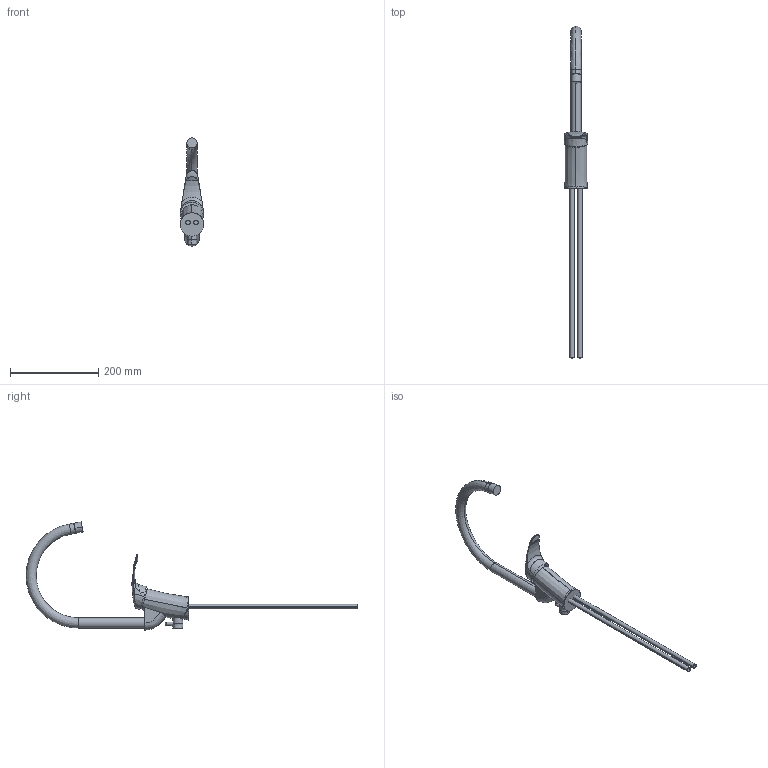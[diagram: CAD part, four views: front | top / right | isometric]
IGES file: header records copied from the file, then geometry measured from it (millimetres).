
Start section:  PTC IGES file: 10071_web.igs
Global section: file name: 10071_web.igs; native system: Creo Parametric by PTC Inc.; preprocessor: 2017380; author: jaj; organization: Unknown; date: 20181005.110118; units: millimetre
Bounding box: 54 x 750.56 x 244.71 mm (x, y, z)
Surface area: 128423.2 mm2 (no closed solid volume)
Topology: 0 solids, 0 shells, 68 faces, 399 edges, 449 vertices
Faces by surface type: bspline 37, revolution 31
